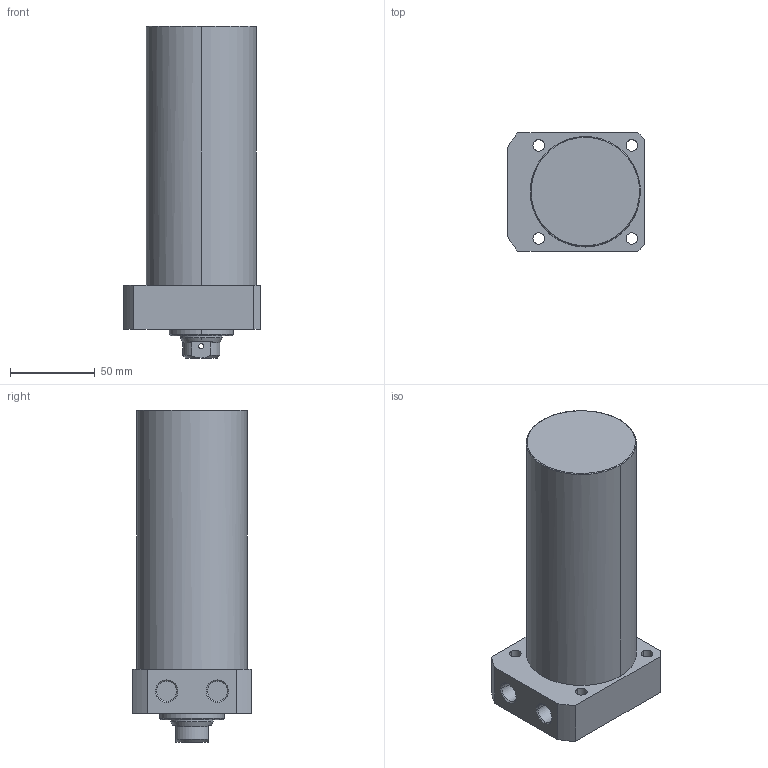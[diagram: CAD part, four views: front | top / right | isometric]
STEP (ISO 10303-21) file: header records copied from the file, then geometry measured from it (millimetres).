
FILE_DESCRIPTION((' '),'2;1');
FILE_NAME( 'TLLR-065CB-120.STEP.stp', '2025-10-24T16:34:57', (' '), ('--- Datakit www.datakit.com---'), ' Datakit CrossCadWare V2024.1 Dec 21 2023', 'Mastercam 2025', ' ');
FILE_SCHEMA(('AUTOMOTIVE_DESIGN { 1 0 10303 214 1 1 1 1 }'));
Length unit declared in the file: millimetre
Products named in the file (1): TLLR-065CB-120
Bounding box: 81 x 70 x 196 mm (x, y, z)
Volume: 651587.6 mm3; surface area: 55713.5 mm2
Topology: 1 solids, 1 shells, 67 faces, 197 edges, 136 vertices
Faces by surface type: cylinder 32, plane 19, cone 14, torus 2
Entity records: 3278 total; most frequent: CARTESIAN_POINT 1359, DIRECTION 426, ORIENTED_EDGE 390, EDGE_CURVE 195, AXIS2_PLACEMENT_3D 179, VERTEX_POINT 136, CIRCLE 111, EDGE_LOOP 85
